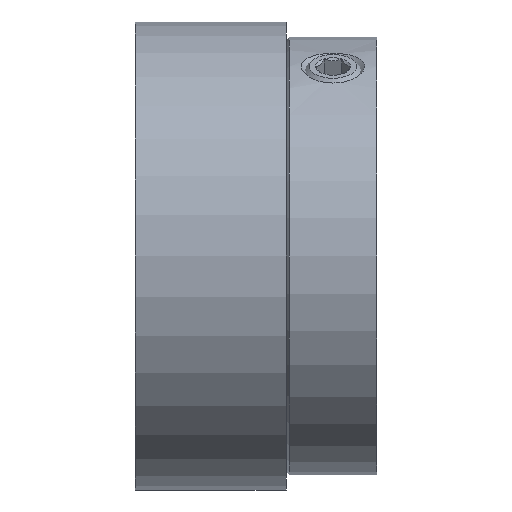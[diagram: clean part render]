
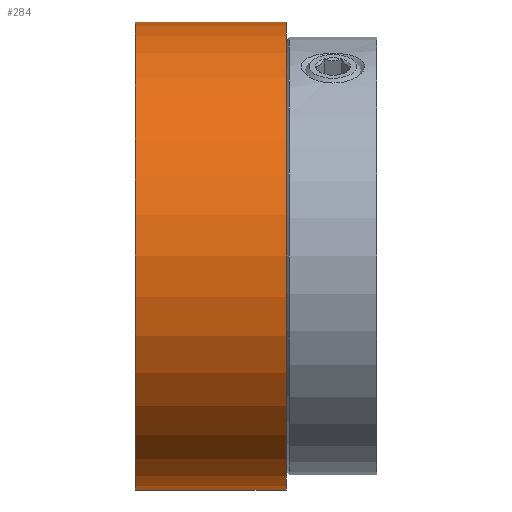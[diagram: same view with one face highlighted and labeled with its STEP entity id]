
A CAD part, front view. The second image highlights one B-rep face of the part: STEP entity #284.
In plain terms, the highlighted cylindrical face has radius 15.5 mm (diameter 31 mm), a full revolution.
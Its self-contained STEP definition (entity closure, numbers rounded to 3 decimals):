
#157 = CARTESIAN_POINT ( 'NONE',  ( 0.92, 0.138, 0. ) ) ;
#158 = DIRECTION ( 'NONE',  ( -1., 0., 0. ) ) ;
#159 = DIRECTION ( 'NONE',  ( 0., 0., 1. ) ) ;
#233 = EDGE_CURVE ( 'NONE', #370, #370, #675, .T. ) ;
#284 = ADVANCED_FACE ( 'NONE', ( #734, #741 ), #743, .T. ) ;
#339 = CIRCLE ( 'NONE', #829, 15.5 ) ;
#370 = VERTEX_POINT ( 'NONE', #888 ) ;
#375 = VERTEX_POINT ( 'NONE', #893 ) ;
#442 = EDGE_CURVE ( 'NONE', #375, #375, #339, .T. ) ;
#475 = AXIS2_PLACEMENT_3D ( 'NONE', #1493, #1495, #1501 ) ;
#675 = CIRCLE ( 'NONE', #475, 15.5 ) ;
#734 = FACE_OUTER_BOUND ( 'NONE', #1274, .T. ) ;
#741 = FACE_OUTER_BOUND ( 'NONE', #1271, .T. ) ;
#743 = CYLINDRICAL_SURFACE ( 'NONE', #793, 15.5 ) ;
#793 = AXIS2_PLACEMENT_3D ( 'NONE', #1333, #1338, #1336 ) ;
#829 = AXIS2_PLACEMENT_3D ( 'NONE', #157, #158, #159 ) ;
#888 = CARTESIAN_POINT ( 'NONE',  ( -9.08, 0.138, 15.5 ) ) ;
#893 = CARTESIAN_POINT ( 'NONE',  ( 0.92, 0.138, 15.5 ) ) ;
#984 = ORIENTED_EDGE ( 'NONE', *, *, #442, .T. ) ;
#987 = ORIENTED_EDGE ( 'NONE', *, *, #233, .F. ) ;
#1271 = EDGE_LOOP ( 'NONE', ( #984 ) ) ;
#1274 = EDGE_LOOP ( 'NONE', ( #987 ) ) ;
#1333 = CARTESIAN_POINT ( 'NONE',  ( -9.08, 0.138, 0. ) ) ;
#1336 = DIRECTION ( 'NONE',  ( 0., 0., -1. ) ) ;
#1338 = DIRECTION ( 'NONE',  ( 1., 0., 0. ) ) ;
#1493 = CARTESIAN_POINT ( 'NONE',  ( -9.08, 0.138, 0. ) ) ;
#1495 = DIRECTION ( 'NONE',  ( -1., 0., 0. ) ) ;
#1501 = DIRECTION ( 'NONE',  ( 0., 0., 1. ) ) ;
